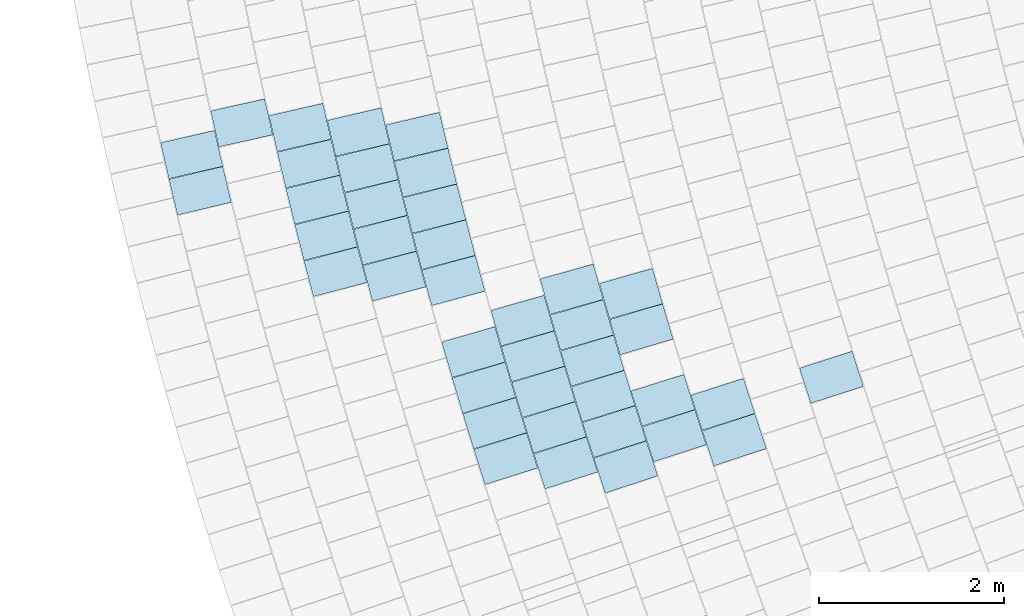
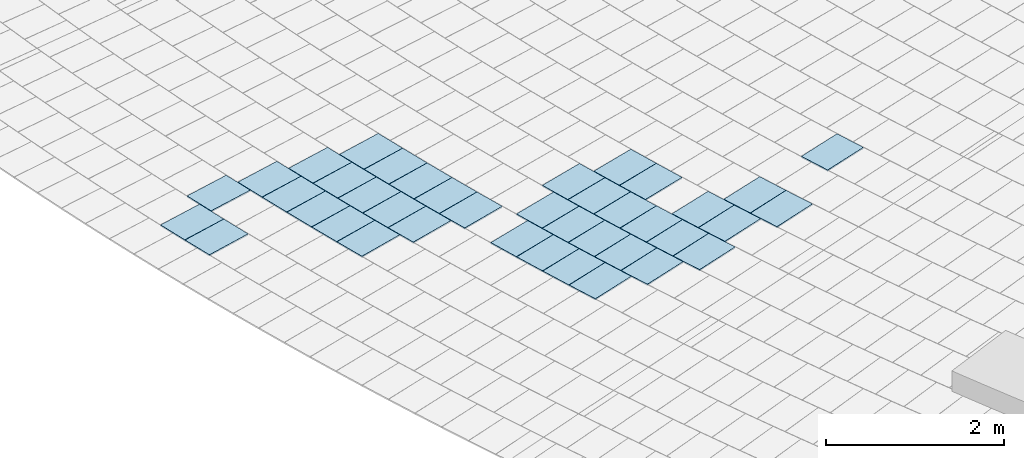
# One storey, part 72 of 438: 40 slabs.
"""IFC2X3 building model written with IfcOpenShell, lengths in millimetres."""

from ifc_helpers import new_model, entity, si_unit, converted_unit, derived_unit, direction, frame, origin, place, context, subcontext, project, spatial, polyline, outline, extrude, material, layer, layer_set, layer_usage, type_object, element, save


model = new_model("IFC2X3")

# Units and contexts
model_context = context("Model", 3, precision=0.01, world=origin(), true_north=direction((6.123031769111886e-17, 1.0)))
body_context = subcontext(model_context, "Body", "Model", "MODEL_VIEW")
ifc_project = project(units=[si_unit("LENGTHUNIT", "METRE", prefix="MILLI"), si_unit("AREAUNIT", "SQUARE_METRE"), si_unit("VOLUMEUNIT", "CUBIC_METRE"), converted_unit("PLANEANGLEUNIT", "DEGREE", entity("IfcRatioMeasure", 0.017453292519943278), si_unit("PLANEANGLEUNIT", "RADIAN"), dimensions=[0, 0, 0, 0, 0, 0, 0]), si_unit("MASSUNIT", "GRAM", prefix="KILO"), derived_unit("MASSDENSITYUNIT", [(si_unit("MASSUNIT", "GRAM", prefix="KILO"), 1), (si_unit("LENGTHUNIT", "METRE"), -3)]), derived_unit("MOMENTOFINERTIAUNIT", [(si_unit("LENGTHUNIT", "METRE"), 4)]), si_unit("TIMEUNIT", "SECOND"), si_unit("FREQUENCYUNIT", "HERTZ"), si_unit("THERMODYNAMICTEMPERATUREUNIT", "DEGREE_CELSIUS"), derived_unit("THERMALTRANSMITTANCEUNIT", [(si_unit("MASSUNIT", "GRAM", prefix="KILO"), 1), (si_unit("THERMODYNAMICTEMPERATUREUNIT", "KELVIN"), -1), (si_unit("TIMEUNIT", "SECOND"), -3)]), derived_unit("THERMALCONDUCTANCEUNIT", [(si_unit("MASSUNIT", "GRAM", prefix="KILO"), 1), (si_unit("LENGTHUNIT", "METRE"), 1), (si_unit("THERMODYNAMICTEMPERATUREUNIT", "KELVIN"), -1), (si_unit("TIMEUNIT", "SECOND"), -3)]), derived_unit("VOLUMETRICFLOWRATEUNIT", [(si_unit("LENGTHUNIT", "METRE"), 3), (si_unit("TIMEUNIT", "SECOND"), -1)]), derived_unit("MASSFLOWRATEUNIT", [(si_unit("MASSUNIT", "GRAM", prefix="KILO"), 1), (si_unit("TIMEUNIT", "SECOND"), -1)]), derived_unit("ROTATIONALFREQUENCYUNIT", [(si_unit("TIMEUNIT", "SECOND"), -1)]), si_unit("ELECTRICCURRENTUNIT", "AMPERE"), si_unit("ELECTRICVOLTAGEUNIT", "VOLT"), si_unit("POWERUNIT", "WATT"), converted_unit("FORCEUNIT", "KIP", entity("IfcRatioMeasure", 2.088543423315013e-05), si_unit("FORCEUNIT", "NEWTON"), dimensions=[1, 1, -2, 0, 0, 0, 0]), si_unit("ILLUMINANCEUNIT", "LUX"), si_unit("LUMINOUSFLUXUNIT", "LUMEN"), si_unit("LUMINOUSINTENSITYUNIT", "CANDELA"), derived_unit("USERDEFINED", [(si_unit("MASSUNIT", "GRAM", prefix="KILO"), -1), (si_unit("LENGTHUNIT", "METRE"), -2), (si_unit("TIMEUNIT", "SECOND"), 3), (si_unit("LUMINOUSFLUXUNIT", "LUMEN"), 1)]), derived_unit("USERDEFINED", [(si_unit("MASSUNIT", "GRAM", prefix="KILO"), 1), (si_unit("LENGTHUNIT", "METRE"), 3), (si_unit("TIMEUNIT", "SECOND"), -3), (si_unit("ELECTRICCURRENTUNIT", "AMPERE"), -2)]), derived_unit("USERDEFINED", [(si_unit("LENGTHUNIT", "METRE"), 2), (si_unit("TIMEUNIT", "SECOND"), -2)]), derived_unit("SOUNDPOWERUNIT", [(si_unit("MASSUNIT", "GRAM", prefix="KILO"), 1), (si_unit("LENGTHUNIT", "METRE"), 2), (si_unit("TIMEUNIT", "SECOND"), -3)]), derived_unit("SOUNDPRESSUREUNIT", [(si_unit("MASSUNIT", "GRAM", prefix="KILO"), 1), (si_unit("LENGTHUNIT", "METRE"), -1), (si_unit("TIMEUNIT", "SECOND"), -2)]), derived_unit("LINEARVELOCITYUNIT", [(si_unit("LENGTHUNIT", "METRE"), 1), (si_unit("TIMEUNIT", "SECOND"), -1)]), si_unit("PRESSUREUNIT", "PASCAL"), derived_unit("USERDEFINED", [(si_unit("LENGTHUNIT", "METRE"), -2), (si_unit("MASSUNIT", "GRAM", prefix="KILO"), 1), (si_unit("TIMEUNIT", "SECOND"), -2)]), derived_unit("LINEARFORCEUNIT", [(si_unit("MASSUNIT", "GRAM", prefix="KILO"), 1), (si_unit("LENGTHUNIT", "METRE"), 1), (si_unit("TIMEUNIT", "SECOND"), -2), (si_unit("LENGTHUNIT", "METRE"), -1)]), derived_unit("PLANARFORCEUNIT", [(si_unit("MASSUNIT", "GRAM", prefix="KILO"), 1), (si_unit("LENGTHUNIT", "METRE"), 1), (si_unit("TIMEUNIT", "SECOND"), -2), (si_unit("LENGTHUNIT", "METRE"), -2)]), derived_unit("SPECIFICHEATCAPACITYUNIT", [(si_unit("LENGTHUNIT", "METRE"), 2), (si_unit("TIMEUNIT", "SECOND"), -2), (si_unit("THERMODYNAMICTEMPERATUREUNIT", "KELVIN"), -1)]), derived_unit("VAPORPERMEABILITYUNIT", [(si_unit("TIMEUNIT", "SECOND"), 1), (si_unit("LENGTHUNIT", "METRE"), -1)]), derived_unit("DYNAMICVISCOSITYUNIT", [(si_unit("MASSUNIT", "GRAM", prefix="KILO"), 1), (si_unit("LENGTHUNIT", "METRE"), -1), (si_unit("TIMEUNIT", "SECOND"), -1)]), derived_unit("THERMALEXPANSIONCOEFFICIENTUNIT", [(si_unit("THERMODYNAMICTEMPERATUREUNIT", "KELVIN"), -1)])], contexts=[model_context])

# Site, building, storey
site_placement = place(None, frame((0.0, 0.0, 0.0), z_axis=(0.0, 0.0, 1.0), x_axis=(0.8191520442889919, 0.5735764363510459, 0.0)))
site = spatial("IfcSite", under=ifc_project, at=site_placement, Name="Default", CompositionType="ELEMENT")
building_placement = place(site_placement, origin())
building = spatial("IfcBuilding", under=site, at=building_placement, CompositionType="ELEMENT")
storey_placement = place(building_placement, origin())
storey = spatial("IfcBuildingStorey", under=building, at=storey_placement, Name="PLAN", CompositionType="ELEMENT", Elevation=0.0)

# Slabs
ifc_material = material(Name="Paint-01")
ifc_layer = layer(ifc_material, 20.00000000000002)
ifc_layer_set = layer_set([ifc_layer], Name="Floor:Slab-179:1000")
ifc_layer_usage = layer_usage(ifc_layer_set, "AXIS3", "POSITIVE", 0.0)
slab_type = type_object("IfcSlabType", Name="Floor:Slab-179:1000", PredefinedType="FLOOR", material=ifc_layer_set)
slab_1_placement = place(storey_placement, origin())
element("IfcSlab", 1, at=slab_1_placement, inside=storey, type_object=slab_type, material=ifc_layer_usage, Name="Floor:Slab-179:1000", ObjectType="Floor:Slab-179:1000", PredefinedType="FLOOR", context=body_context, shape_type="SweptSolid", body=[
    extrude(outline(polyline([(-300.0, -200.0000029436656), (299.9999976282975, -200.0000029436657), (300.0, 200.00000294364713), (-299.9999976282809, 200.0000029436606), (-300.0, -200.0000029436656)])), frame((-83785.31305456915, -54520.36488430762, 520.0), z_axis=(0.0, 0.0, -1.0), x_axis=(0.955445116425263, -0.29516881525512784, 0.0)), (0.0, 0.0, 1.0), 19.99999999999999),
])
slab_2_placement = place(storey_placement, origin())
element("IfcSlab", 2, at=slab_2_placement, inside=storey, type_object=slab_type, material=ifc_layer_usage, Name="Floor:Slab-179:1000", ObjectType="Floor:Slab-179:1000", PredefinedType="FLOOR", context=body_context, shape_type="SweptSolid", body=[
    extrude(outline(polyline([(-300.0, -200.00000294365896), (299.9999976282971, -200.00000294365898), (300.0, 200.00000294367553), (-299.9999976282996, 200.00000294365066), (-300.0, -200.00000294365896)])), frame((-85035.3091168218, -54470.93870838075, 520.0), z_axis=(0.0, 0.0, -1.0), x_axis=(0.9574559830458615, -0.2885793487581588, 0.0)), (0.0, 0.0, 1.0), 19.999999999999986),
])
slab_3_placement = place(storey_placement, origin())
element("IfcSlab", 3, at=slab_3_placement, inside=storey, type_object=slab_type, material=ifc_layer_usage, Name="Floor:Slab-179:1000", ObjectType="Floor:Slab-179:1000", PredefinedType="FLOOR", context=body_context, shape_type="SweptSolid", body=[
    extrude(outline(polyline([(-300.0, -200.00000294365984), (299.9999976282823, -200.00000294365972), (300.0, 200.00000294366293), (-299.99999762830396, 200.00000294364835), (-300.0, -200.00000294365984)])), frame((-84917.47178119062, -54085.98804931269, 520.0), z_axis=(0.0, 0.0, -1.0), x_axis=(0.9549326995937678, -0.2968224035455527, 0.0)), (0.0, 0.0, 1.0), 19.999999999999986),
])
slab_4_placement = place(storey_placement, origin())
element("IfcSlab", 4, at=slab_4_placement, inside=storey, type_object=slab_type, material=ifc_layer_usage, Name="Floor:Slab-179:1000", ObjectType="Floor:Slab-179:1000", PredefinedType="FLOOR", context=body_context, shape_type="SweptSolid", body=[
    extrude(outline(polyline([(-300.0, -200.0000029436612), (299.9999976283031, -200.0000029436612), (300.0, 200.00000294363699), (-299.9999976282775, 200.0000029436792), (-300.0, -200.0000029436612)])), frame((-86116.68676652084, -50181.57135177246, 520.0), z_axis=(0.0, 0.0, -1.0), x_axis=(0.9322999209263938, -0.3616861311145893, 0.0)), (0.0, 0.0, 1.0), 20.000000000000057),
])
slab_5_placement = place(storey_placement, origin())
element("IfcSlab", 5, at=slab_5_placement, inside=storey, type_object=slab_type, material=ifc_layer_usage, Name="Floor:Slab-179:1000", ObjectType="Floor:Slab-179:1000", PredefinedType="FLOOR", context=body_context, shape_type="SweptSolid", body=[
    extrude(outline(polyline([(-300.0, -200.0000029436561), (299.999997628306, -200.0000029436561), (300.0, 200.0000029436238), (-299.9999976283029, 200.00000294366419), (-300.0, -200.0000029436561)])), frame((-87246.57303446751, -49748.58025471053, 520.0), z_axis=(0.0, 0.0, -1.0), x_axis=(0.9323357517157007, -0.36159375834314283, 0.0)), (0.0, 0.0, 1.0), 20.000000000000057),
])
slab_6_placement = place(storey_placement, origin())
element("IfcSlab", 6, at=slab_6_placement, inside=storey, type_object=slab_type, material=ifc_layer_usage, Name="Floor:Slab-179:1000", ObjectType="Floor:Slab-179:1000", PredefinedType="FLOOR", context=body_context, shape_type="SweptSolid", body=[
    extrude(outline(polyline([(-300.0, -200.00000294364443), (299.99999762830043, -200.00000294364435), (300.0, 200.00000294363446), (-299.9999976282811, 200.00000294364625), (-300.0, -200.00000294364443)])), frame((-86754.01676914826, -50152.817050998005, 520.0), z_axis=(0.0, 0.0, -1.0), x_axis=(0.9337737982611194, -0.35786379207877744, 0.0)), (0.0, 0.0, 1.0), 19.99999999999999),
])
slab_7_placement = place(storey_placement, origin())
element("IfcSlab", 7, at=slab_7_placement, inside=storey, type_object=slab_type, material=ifc_layer_usage, Name="Floor:Slab-179:1000", ObjectType="Floor:Slab-179:1000", PredefinedType="FLOOR", context=body_context, shape_type="SweptSolid", body=[
    extrude(outline(polyline([(-200.00000453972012, -299.99999869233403), (200.0000013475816, -299.9999986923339), (200.00000453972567, 299.9999986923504), (-200.00000134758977, 299.9999986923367), (-200.00000453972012, -299.99999869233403)])), frame((-85174.38021170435, -52913.057237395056, 520.0), z_axis=(0.0, 0.0, -1.0), x_axis=(-0.3178213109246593, -0.9481506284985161, 0.0)), (0.0, 0.0, 1.0), 20.000000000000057),
])
slab_8_placement = place(storey_placement, origin())
element("IfcSlab", 8, at=slab_8_placement, inside=storey, type_object=slab_type, material=ifc_layer_usage, Name="Floor:Slab-179:1000", ObjectType="Floor:Slab-179:1000", PredefinedType="FLOOR", context=body_context, shape_type="SweptSolid", body=[
    extrude(outline(polyline([(-200.00000453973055, -299.9999986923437), (200.0000013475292, -299.9999986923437), (200.00000453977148, 299.9999986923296), (-200.00000134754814, 299.99999869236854), (-200.00000453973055, -299.9999986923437)])), frame((-85044.818659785, -52531.92769421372, 520.0), z_axis=(0.0, 0.0, -1.0), x_axis=(-0.32587816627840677, -0.9454117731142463, 0.0)), (0.0, 0.0, 1.0), 20.000000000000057),
])
slab_9_placement = place(storey_placement, origin())
element("IfcSlab", 9, at=slab_9_placement, inside=storey, type_object=slab_type, material=ifc_layer_usage, Name="Floor:Slab-179:1000", ObjectType="Floor:Slab-179:1000", PredefinedType="FLOOR", context=body_context, shape_type="SweptSolid", body=[
    extrude(outline(polyline([(-200.00000453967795, -299.999998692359), (200.0000013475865, -299.999998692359), (200.00000453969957, 299.9999986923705), (-200.00000134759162, 299.99999869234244), (-200.00000453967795, -299.999998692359)])), frame((-85543.54085748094, -54062.867365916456, 520.0), z_axis=(0.0, 0.0, -1.0), x_axis=(-0.2935149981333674, -0.9559544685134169, 0.0)), (0.0, 0.0, 1.0), 20.000000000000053),
])
slab_10_placement = place(storey_placement, origin())
element("IfcSlab", 10, at=slab_10_placement, inside=storey, type_object=slab_type, material=ifc_layer_usage, Name="Floor:Slab-179:1000", ObjectType="Floor:Slab-179:1000", PredefinedType="FLOOR", context=body_context, shape_type="SweptSolid", body=[
    extrude(outline(polyline([(-200.00000453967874, -299.99999869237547), (200.00000134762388, -299.9999986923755), (200.00000453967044, 299.99999869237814), (-200.00000134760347, 299.9999986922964), (-200.00000453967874, -299.99999869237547)])), frame((-85423.75033952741, -53678.5547897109, 520.0), z_axis=(0.0, 0.0, -1.0), x_axis=(-0.30163914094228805, -0.9534221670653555, 0.0)), (0.0, 0.0, 1.0), 20.000000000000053),
])
slab_11_placement = place(storey_placement, origin())
element("IfcSlab", 11, at=slab_11_placement, inside=storey, type_object=slab_type, material=ifc_layer_usage, Name="Floor:Slab-179:1000", ObjectType="Floor:Slab-179:1000", PredefinedType="FLOOR", context=body_context, shape_type="SweptSolid", body=[
    extrude(outline(polyline([(-200.00000453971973, -299.99999869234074), (200.0000013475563, -299.9999986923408), (200.0000045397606, 299.99999869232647), (-200.00000134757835, 299.99999869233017), (-200.00000453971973, -299.99999869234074)])), frame((-85543.96777150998, -52125.07533942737, 520.0), z_axis=(0.0, 0.0, -1.0), x_axis=(-0.3302550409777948, -0.9438917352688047, 0.0)), (0.0, 0.0, 1.0), 19.999999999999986),
])
slab_12_placement = place(storey_placement, origin())
element("IfcSlab", 12, at=slab_12_placement, inside=storey, type_object=slab_type, material=ifc_layer_usage, Name="Floor:Slab-179:1000", ObjectType="Floor:Slab-179:1000", PredefinedType="FLOOR", context=body_context, shape_type="SweptSolid", body=[
    extrude(outline(polyline([(-200.0000045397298, -299.9999986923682), (200.000001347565, -299.9999986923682), (200.0000045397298, 299.9999986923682), (-200.00000134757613, 299.99999869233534), (-200.0000045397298, -299.9999986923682)])), frame((-85675.30383758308, -52505.56281532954, 520.0), z_axis=(0.0, 0.0, -1.0), x_axis=(-0.3223133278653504, -0.9466330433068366, 0.0)), (0.0, 0.0, 1.0), 20.000000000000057),
])
slab_13_placement = place(storey_placement, origin())
element("IfcSlab", 13, at=slab_13_placement, inside=storey, type_object=slab_type, material=ifc_layer_usage, Name="Floor:Slab-179:1000", ObjectType="Floor:Slab-179:1000", PredefinedType="FLOOR", context=body_context, shape_type="SweptSolid", body=[
    extrude(outline(polyline([(-200.00000453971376, -299.99999869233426), (200.0000013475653, -299.9999986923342), (200.00000453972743, 299.99999869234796), (-200.00000134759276, 299.99999869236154), (-200.00000453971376, -299.99999869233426)])), frame((-85803.43862263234, -52887.140275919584, 520.0), z_axis=(0.0, 0.0, -1.0), x_axis=(-0.31434886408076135, -0.9493075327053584, 0.0)), (0.0, 0.0, 1.0), 20.000000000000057),
])
slab_14_placement = place(storey_placement, origin())
element("IfcSlab", 14, at=slab_14_placement, inside=storey, type_object=slab_type, material=ifc_layer_usage, Name="Floor:Slab-179:1000", ObjectType="Floor:Slab-179:1000", PredefinedType="FLOOR", context=body_context, shape_type="SweptSolid", body=[
    extrude(outline(polyline([(-200.00000453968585, -299.9999986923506), (200.00000134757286, -299.9999986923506), (200.000004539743, 299.9999986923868), (-200.00000134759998, 299.9999986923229), (-200.00000453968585, -299.9999986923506)])), frame((-85928.36308219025, -53269.780787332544, 520.0), z_axis=(0.0, 0.0, -1.0), x_axis=(-0.3063622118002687, -0.9519150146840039, 0.0)), (0.0, 0.0, 1.0), 19.99999999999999),
])
slab_15_placement = place(storey_placement, origin())
element("IfcSlab", 15, at=slab_15_placement, inside=storey, type_object=slab_type, material=ifc_layer_usage, Name="Floor:Slab-179:1000", ObjectType="Floor:Slab-179:1000", PredefinedType="FLOOR", context=body_context, shape_type="SweptSolid", body=[
    extrude(outline(polyline([(-200.00000453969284, -299.99999869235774), (200.0000013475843, -299.99999869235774), (200.00000453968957, 299.99999869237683), (-200.00000134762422, 299.9999986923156), (-200.00000453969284, -299.99999869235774)])), frame((-86168.54598059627, -54038.142853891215, 520.0), z_axis=(0.0, 0.0, -1.0), x_axis=(-0.29032459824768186, -0.9569282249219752, 0.0)), (0.0, 0.0, 1.0), 19.999999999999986),
])
slab_16_placement = place(storey_placement, origin())
element("IfcSlab", 16, at=slab_16_placement, inside=storey, type_object=slab_type, material=ifc_layer_usage, Name="Floor:Slab-179:1000", ObjectType="Floor:Slab-179:1000", PredefinedType="FLOOR", context=body_context, shape_type="SweptSolid", body=[
    extrude(outline(polyline([(-200.00000453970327, -299.99999869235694), (200.00000134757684, -299.99999869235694), (200.00000453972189, 299.99999869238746), (-200.0000013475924, 299.9999986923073), (-200.00000453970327, -299.99999869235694)])), frame((-86050.06839839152, -53653.4573406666, 520.0), z_axis=(0.0, 0.0, -1.0), x_axis=(-0.29835393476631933, -0.9544553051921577, 0.0)), (0.0, 0.0, 1.0), 20.000000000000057),
])
slab_17_placement = place(storey_placement, origin())
element("IfcSlab", 17, at=slab_17_placement, inside=storey, type_object=slab_type, material=ifc_layer_usage, Name="Floor:Slab-179:1000", ObjectType="Floor:Slab-179:1000", PredefinedType="FLOOR", context=body_context, shape_type="SweptSolid", body=[
    extrude(outline(polyline([(-200.0000045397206, -299.99999869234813), (200.00000134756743, -299.99999869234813), (200.0000045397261, 299.99999869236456), (-200.0000013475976, 299.99999869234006), (-200.0000045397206, -299.99999869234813)])), frame((-86305.15205837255, -52479.384915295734, 520.0), z_axis=(0.0, 0.0, -1.0), x_axis=(-0.3188335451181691, -0.9478107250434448, 0.0)), (0.0, 0.0, 1.0), 20.000000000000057),
])
slab_18_placement = place(storey_placement, origin())
element("IfcSlab", 18, at=slab_18_placement, inside=storey, type_object=slab_type, material=ifc_layer_usage, Name="Floor:Slab-179:1000", ObjectType="Floor:Slab-179:1000", PredefinedType="FLOOR", context=body_context, shape_type="SweptSolid", body=[
    extrude(outline(polyline([(-200.00000453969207, -299.9999986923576), (200.00000134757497, -299.9999986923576), (200.0000045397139, 299.9999986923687), (-200.00000134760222, 299.99999869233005), (-200.00000453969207, -299.9999986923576)])), frame((-86431.89439933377, -52861.39391046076, 520.0), z_axis=(0.0, 0.0, -1.0), x_axis=(-0.3109595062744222, -0.9504231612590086, 0.0)), (0.0, 0.0, 1.0), 20.000000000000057),
])
slab_19_placement = place(storey_placement, origin())
element("IfcSlab", 19, at=slab_19_placement, inside=storey, type_object=slab_type, material=ifc_layer_usage, Name="Floor:Slab-179:1000", ObjectType="Floor:Slab-179:1000", PredefinedType="FLOOR", context=body_context, shape_type="SweptSolid", body=[
    extrude(outline(polyline([(-200.00000453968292, -299.9999986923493), (200.00000134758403, -299.9999986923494), (200.00000453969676, 299.99999869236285), (-200.00000134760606, 299.99999869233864), (-200.00000453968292, -299.9999986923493)])), frame((-86175.24492057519, -52098.44052443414, 520.0), z_axis=(0.0, 0.0, -1.0), x_axis=(-0.32668564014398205, -0.9451330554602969, 0.0)), (0.0, 0.0, 1.0), 19.99999999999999),
])
slab_20_placement = place(storey_placement, origin())
element("IfcSlab", 20, at=slab_20_placement, inside=storey, type_object=slab_type, material=ifc_layer_usage, Name="Floor:Slab-179:1000", ObjectType="Floor:Slab-179:1000", PredefinedType="FLOOR", context=body_context, shape_type="SweptSolid", body=[
    extrude(outline(polyline([(-200.00000453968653, -299.99999869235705), (200.0000013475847, -299.999998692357), (200.00000453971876, 299.99999869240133), (-200.00000134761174, 299.99999869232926), (-200.00000453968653, -299.99999869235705)])), frame((-86555.46322037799, -53244.44121804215, 520.0), z_axis=(0.0, 0.0, -1.0), x_axis=(-0.30306406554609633, -0.952970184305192, 0.0)), (0.0, 0.0, 1.0), 20.000000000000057),
])
slab_21_placement = place(storey_placement, origin())
element("IfcSlab", 21, at=slab_21_placement, inside=storey, type_object=slab_type, material=ifc_layer_usage, Name="Floor:Slab-179:1000", ObjectType="Floor:Slab-179:1000", PredefinedType="FLOOR", context=body_context, shape_type="SweptSolid", body=[
    extrude(outline(polyline([(-200.00000453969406, -299.99999869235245), (200.00000134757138, -299.99999869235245), (200.00000453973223, 299.9999986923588), (-200.00000134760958, 299.99999869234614), (-200.00000453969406, -299.99999869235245)])), frame((-86675.85001684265, -53628.50047468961, 520.0), z_axis=(0.0, 0.0, -1.0), x_axis=(-0.29514776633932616, -0.9554516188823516, 0.0)), (0.0, 0.0, 1.0), 20.000000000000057),
])
slab_22_placement = place(storey_placement, origin())
element("IfcSlab", 22, at=slab_22_placement, inside=storey, type_object=slab_type, material=ifc_layer_usage, Name="Floor:Slab-179:1000", ObjectType="Floor:Slab-179:1000", PredefinedType="FLOOR", context=body_context, shape_type="SweptSolid", body=[
    extrude(outline(polyline([(-300.0, -200.00000294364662), (299.99999762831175, -200.00000294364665), (300.0, 200.00000294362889), (-299.99999762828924, 200.00000294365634), (-300.0, -200.00000294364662)])), frame((-85969.5886304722, -49806.962390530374, 520.0), z_axis=(0.0, 0.0, -1.0), x_axis=(0.9293052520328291, -0.36931253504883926, 0.0)), (0.0, 0.0, 1.0), 20.000000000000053),
])
slab_23_placement = place(storey_placement, origin())
element("IfcSlab", 23, at=slab_23_placement, inside=storey, type_object=slab_type, material=ifc_layer_usage, Name="Floor:Slab-179:1000", ObjectType="Floor:Slab-179:1000", PredefinedType="FLOOR", context=body_context, shape_type="SweptSolid", body=[
    extrude(outline(polyline([(-200.00000453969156, -299.99999869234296), (200.00000134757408, -299.999998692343), (200.00000453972, 299.9999986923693), (-200.00000134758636, 299.9999986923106), (-200.00000453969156, -299.99999869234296)])), frame((-86260.71070934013, -50557.37294752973, 520.0), z_axis=(0.0, 0.0, -1.0), x_axis=(-0.3540354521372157, -0.9352320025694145, 0.0)), (0.0, 0.0, 1.0), 19.999999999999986),
])
slab_24_placement = place(storey_placement, origin())
element("IfcSlab", 24, at=slab_24_placement, inside=storey, type_object=slab_type, material=ifc_layer_usage, Name="Floor:Slab-179:1000", ObjectType="Floor:Slab-179:1000", PredefinedType="FLOOR", context=body_context, shape_type="SweptSolid", body=[
    extrude(outline(polyline([(-200.00000453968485, -299.9999986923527), (200.0000013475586, -299.9999986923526), (200.00000453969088, 299.9999986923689), (-200.00000134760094, 299.99999869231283), (-200.00000453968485, -299.9999986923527)])), frame((-86401.6507905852, -50934.341950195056, 520.0), z_axis=(0.0, 0.0, -1.0), x_axis=(-0.346361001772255, -0.9381013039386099, 0.0)), (0.0, 0.0, 1.0), 20.000000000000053),
])
slab_25_placement = place(storey_placement, origin())
element("IfcSlab", 25, at=slab_25_placement, inside=storey, type_object=slab_type, material=ifc_layer_usage, Name="Floor:Slab-179:1000", ObjectType="Floor:Slab-179:1000", PredefinedType="FLOOR", context=body_context, shape_type="SweptSolid", body=[
    extrude(outline(polyline([(-200.00000453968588, -299.99999869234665), (200.0000013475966, -299.99999869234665), (200.0000045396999, 299.99999869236), (-200.00000134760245, 299.99999869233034), (-200.00000453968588, -299.99999869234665)])), frame((-86539.49754894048, -51312.453053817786, 520.0), z_axis=(0.0, 0.0, -1.0), x_axis=(-0.33866330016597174, -0.9409076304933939, 0.0)), (0.0, 0.0, 1.0), 20.000000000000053),
])
slab_26_placement = place(storey_placement, origin())
element("IfcSlab", 26, at=slab_26_placement, inside=storey, type_object=slab_type, material=ifc_layer_usage, Name="Floor:Slab-179:1000", ObjectType="Floor:Slab-179:1000", PredefinedType="FLOOR", context=body_context, shape_type="SweptSolid", body=[
    extrude(outline(polyline([(-200.00000453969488, -299.9999986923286), (200.00000134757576, -299.9999986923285), (200.00000453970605, 299.9999986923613), (-200.00000134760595, 299.99999869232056), (-200.00000453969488, -299.9999986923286)])), frame((-86805.87429060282, -52072.0, 520.0), z_axis=(0.0, 0.0, -1.0), x_axis=(-0.3232002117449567, -0.9463306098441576, 0.0)), (0.0, 0.0, 1.0), 20.000000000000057),
])
slab_27_placement = place(storey_placement, origin())
element("IfcSlab", 27, at=slab_27_placement, inside=storey, type_object=slab_type, material=ifc_layer_usage, Name="Floor:Slab-179:1000", ObjectType="Floor:Slab-179:1000", PredefinedType="FLOOR", context=body_context, shape_type="SweptSolid", body=[
    extrude(outline(polyline([(-200.00000453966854, -299.99999869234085), (200.00000134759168, -299.9999986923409), (200.00000453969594, 299.9999986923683), (-200.0000013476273, 299.9999986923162), (-200.00000453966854, -299.99999869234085)])), frame((-86934.38639201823, -52453.384771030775, 520.0), z_axis=(0.0, 0.0, -1.0), x_axis=(-0.3154358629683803, -0.9489468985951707, 0.0)), (0.0, 0.0, 1.0), 19.99999999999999),
])
slab_28_placement = place(storey_placement, origin())
element("IfcSlab", 28, at=slab_28_placement, inside=storey, type_object=slab_type, material=ifc_layer_usage, Name="Floor:Slab-179:1000", ObjectType="Floor:Slab-179:1000", PredefinedType="FLOOR", context=body_context, shape_type="SweptSolid", body=[
    extrude(outline(polyline([(-200.00000453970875, -299.99999869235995), (200.00000134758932, -299.99999869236), (200.00000453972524, 299.99999869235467), (-200.00000134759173, 299.9999986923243), (-200.00000453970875, -299.99999869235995)])), frame((-87059.76940796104, -52835.80971109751, 520.0), z_axis=(0.0, 0.0, -1.0), x_axis=(-0.3076503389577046, -0.9514994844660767, 0.0)), (0.0, 0.0, 1.0), 19.999999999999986),
])
slab_29_placement = place(storey_placement, origin())
element("IfcSlab", 29, at=slab_29_placement, inside=storey, type_object=slab_type, material=ifc_layer_usage, Name="Floor:Slab-179:1000", ObjectType="Floor:Slab-179:1000", PredefinedType="FLOOR", context=body_context, shape_type="SweptSolid", body=[
    extrude(outline(polyline([(-200.00000453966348, -299.99999869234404), (200.00000134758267, -299.99999869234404), (200.00000453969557, 299.9999986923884), (-200.0000013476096, 299.9999986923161), (-200.00000453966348, -299.99999869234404)])), frame((-87182.01492145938, -53219.24910644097, 520.0), z_axis=(0.0, 0.0, -1.0), x_axis=(-0.29984416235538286, -0.9539881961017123, 0.0)), (0.0, 0.0, 1.0), 20.000000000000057),
])
slab_30_placement = place(storey_placement, origin())
element("IfcSlab", 30, at=slab_30_placement, inside=storey, type_object=slab_type, material=ifc_layer_usage, Name="Floor:Slab-179:1000", ObjectType="Floor:Slab-179:1000", PredefinedType="FLOOR", context=body_context, shape_type="SweptSolid", body=[
    extrude(outline(polyline([(-300.0, -200.00000294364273), (299.99999762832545, -200.0000029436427), (300.0, 200.000002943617), (-299.9999976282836, 200.0000029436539), (-300.0, -200.00000294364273)])), frame((-86459.91997504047, -49403.63162171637, 520.0), z_axis=(0.0, 0.0, -1.0), x_axis=(0.9278593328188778, -0.3729303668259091, 0.0)), (0.0, 0.0, 1.0), 19.99999999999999),
])
slab_31_placement = place(storey_placement, origin())
element("IfcSlab", 31, at=slab_31_placement, inside=storey, type_object=slab_type, material=ifc_layer_usage, Name="Floor:Slab-179:1000", ObjectType="Floor:Slab-179:1000", PredefinedType="FLOOR", context=body_context, shape_type="SweptSolid", body=[
    extrude(outline(polyline([(-300.0, -200.0000029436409), (299.9999976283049, -200.00000294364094), (300.0, 200.00000294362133), (-299.99999762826, 200.00000294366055), (-300.0, -200.0000029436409)])), frame((-86608.48417470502, -49777.629299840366, 520.0), z_axis=(0.0, 0.0, -1.0), x_axis=(0.9308470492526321, -0.3654090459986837, 0.0)), (0.0, 0.0, 1.0), 20.000000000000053),
])
slab_32_placement = place(storey_placement, origin())
element("IfcSlab", 32, at=slab_32_placement, inside=storey, type_object=slab_type, material=ifc_layer_usage, Name="Floor:Slab-179:1000", ObjectType="Floor:Slab-179:1000", PredefinedType="FLOOR", context=body_context, shape_type="SweptSolid", body=[
    extrude(outline(polyline([(-200.00000453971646, -299.99999869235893), (200.00000134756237, -299.999998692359), (200.00000453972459, 299.9999986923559), (-200.00000134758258, 299.99999869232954), (-200.00000453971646, -299.99999869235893)])), frame((-86896.5082264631, -50529.17030162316, 520.0), z_axis=(0.0, 0.0, -1.0), x_axis=(-0.35029510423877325, -0.9366393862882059, 0.0)), (0.0, 0.0, 1.0), 20.000000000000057),
])
slab_33_placement = place(storey_placement, origin())
element("IfcSlab", 33, at=slab_33_placement, inside=storey, type_object=slab_type, material=ifc_layer_usage, Name="Floor:Slab-179:1000", ObjectType="Floor:Slab-179:1000", PredefinedType="FLOOR", context=body_context, shape_type="SweptSolid", body=[
    extrude(outline(polyline([(-200.00000453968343, -299.9999986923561), (200.00000134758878, -299.9999986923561), (200.00000453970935, 299.9999986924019), (-200.0000013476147, 299.9999986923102), (-200.00000453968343, -299.9999986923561)])), frame((-87035.94921392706, -50906.66440181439, 520.0), z_axis=(0.0, 0.0, -1.0), x_axis=(-0.3427034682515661, -0.9394436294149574, 0.0)), (0.0, 0.0, 1.0), 19.99999999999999),
])
slab_34_placement = place(storey_placement, origin())
element("IfcSlab", 34, at=slab_34_placement, inside=storey, type_object=slab_type, material=ifc_layer_usage, Name="Floor:Slab-179:1000", ObjectType="Floor:Slab-179:1000", PredefinedType="FLOOR", context=body_context, shape_type="SweptSolid", body=[
    extrude(outline(polyline([(-300.0, -200.00000294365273), (299.99999762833, -200.00000294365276), (300.0, 200.000002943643), (-299.9999976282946, 200.000002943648), (-300.0, -200.00000294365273)])), frame((-87099.5707911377, -49373.99734085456, 520.0), z_axis=(0.0, 0.0, -1.0), x_axis=(0.9294149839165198, -0.3690362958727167, 0.0)), (0.0, 0.0, 1.0), 20.000000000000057),
])
slab_35_placement = place(storey_placement, origin())
element("IfcSlab", 35, at=slab_35_placement, inside=storey, type_object=slab_type, material=ifc_layer_usage, Name="Floor:Slab-179:1000", ObjectType="Floor:Slab-179:1000", PredefinedType="FLOOR", context=body_context, shape_type="SweptSolid", body=[
    extrude(outline(polyline([(-300.0, -200.00000294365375), (299.9999976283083, -200.0000029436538), (300.0, 200.00000294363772), (-299.9999976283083, 200.0000029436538), (-300.0, -200.00000294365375)])), frame((-86949.57842758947, -49000.601693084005, 520.0), z_axis=(0.0, 0.0, -1.0), x_axis=(0.9264348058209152, -0.37645524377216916, 0.0)), (0.0, 0.0, 1.0), 19.99999999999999),
])
slab_36_placement = place(storey_placement, origin())
element("IfcSlab", 36, at=slab_36_placement, inside=storey, type_object=slab_type, material=ifc_layer_usage, Name="Floor:Slab-179:1000", ObjectType="Floor:Slab-179:1000", PredefinedType="FLOOR", context=body_context, shape_type="SweptSolid", body=[
    extrude(outline(polyline([(-200.000004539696, -299.9999986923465), (200.00000134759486, -299.9999986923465), (200.00000453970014, 299.99999869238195), (-200.00000134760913, 299.99999869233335), (-200.000004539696, -299.9999986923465)])), frame((-87390.57576086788, -50124.3264904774, 520.0), z_axis=(0.0, 0.0, -1.0), x_axis=(-0.3541281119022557, -0.9351969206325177, 0.0)), (0.0, 0.0, 1.0), 19.999999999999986),
])
slab_37_placement = place(storey_placement, origin())
element("IfcSlab", 37, at=slab_37_placement, inside=storey, type_object=slab_type, material=ifc_layer_usage, Name="Floor:Slab-179:1000", ObjectType="Floor:Slab-179:1000", PredefinedType="FLOOR", context=body_context, shape_type="SweptSolid", body=[
    extrude(outline(polyline([(-200.00000453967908, -299.99999869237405), (200.00000134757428, -299.99999869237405), (200.0000045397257, 299.9999986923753), (-200.0000013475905, 299.9999986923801), (-200.00000453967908, -299.99999869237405)])), frame((-87531.56976535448, -50501.212029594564, 520.0), z_axis=(0.0, 0.0, -1.0), x_axis=(-0.3466398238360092, -0.9379983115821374, 0.0)), (0.0, 0.0, 1.0), 20.000000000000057),
])
slab_38_placement = place(storey_placement, origin())
element("IfcSlab", 38, at=slab_38_placement, inside=storey, type_object=slab_type, material=ifc_layer_usage, Name="Floor:Slab-179:1000", ObjectType="Floor:Slab-179:1000", PredefinedType="FLOOR", context=body_context, shape_type="SweptSolid", body=[
    extrude(outline(polyline([(-300.0, -200.00000294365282), (299.99999762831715, -200.00000294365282), (300.0, 200.00000294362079), (-299.99999762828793, 200.0000029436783), (-300.0, -200.00000294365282)])), frame((-87438.58926353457, -48597.8642677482, 520.0), z_axis=(0.0, 0.0, -1.0), x_axis=(0.9250314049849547, -0.3798906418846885, 0.0)), (0.0, 0.0, 1.0), 20.000000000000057),
])
slab_39_placement = place(storey_placement, origin())
element("IfcSlab", 39, at=slab_39_placement, inside=storey, type_object=slab_type, material=ifc_layer_usage, Name="Floor:Slab-179:1000", ObjectType="Floor:Slab-179:1000", PredefinedType="FLOOR", context=body_context, shape_type="SweptSolid", body=[
    extrude(outline(polyline([(-300.0, -200.0000029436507), (299.99999762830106, -200.0000029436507), (300.0, 200.00000294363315), (-299.9999976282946, 200.00000294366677), (-300.0, -200.0000029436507)])), frame((-88079.71714135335, -48567.630119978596, 520.0), z_axis=(0.0, 0.0, -1.0), x_axis=(0.926612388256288, -0.37601792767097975, 0.0)), (0.0, 0.0, 1.0), 19.99999999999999),
])
slab_40_placement = place(storey_placement, origin())
element("IfcSlab", 40, at=slab_40_placement, inside=storey, type_object=slab_type, material=ifc_layer_usage, Name="Floor:Slab-179:1000", ObjectType="Floor:Slab-179:1000", PredefinedType="FLOOR", context=body_context, shape_type="SweptSolid", body=[
    extrude(outline(polyline([(-300.0, -200.00000294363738), (299.9999976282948, -200.00000294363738), (300.0, 200.00000294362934), (-299.99999762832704, 200.00000294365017), (-300.0, -200.00000294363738)])), frame((-88229.54746421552, -48941.029951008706, 520.0), z_axis=(0.0, 0.0, -1.0), x_axis=(0.9295194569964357, -0.3687730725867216, 0.0)), (0.0, 0.0, 1.0), 20.000000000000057),
])

save(model, "model.ifc")
